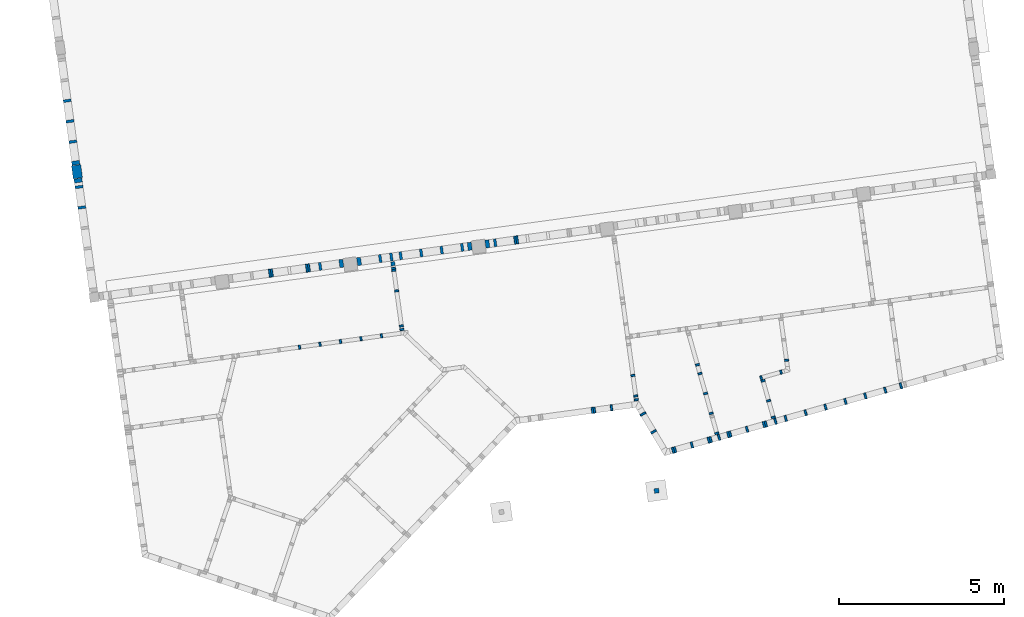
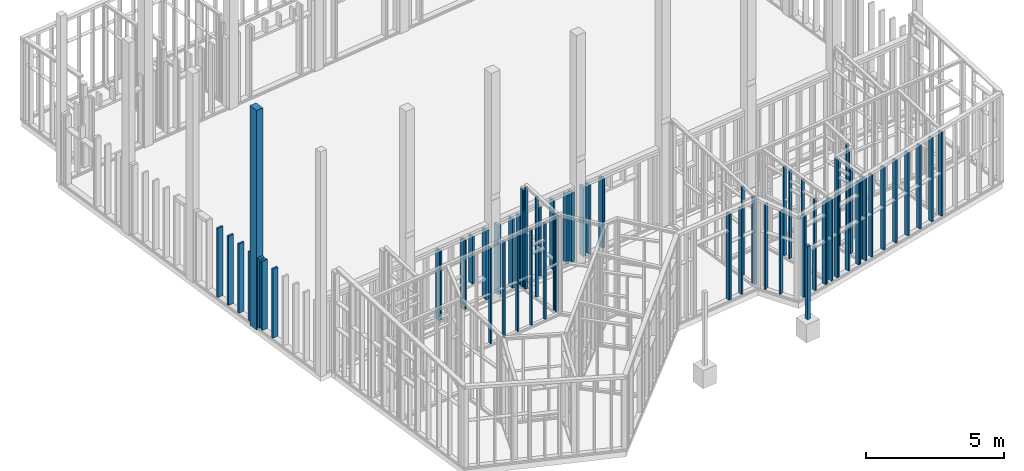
# One storey, part 3 of 24: 76 columns.
"""IFC2X3 building model written with IfcOpenShell, lengths in metres."""

import ifcopenshell
import ifcopenshell.guid

model = None  # the IFC model being written
_history = None  # IfcOwnerHistory: only IFC2X3 demands one
_inside = {}  # id of a spatial element -> (the spatial element, [elements in it])
_under = {}  # id of a project, library or spatial element -> (it, [spatial elements below it])
_declared = {}  # id of a project -> (the project, [libraries it declares])
_typed = {}  # id of a type object -> (the type object, [elements of that type])
_made_of = {}  # id of a material, layer set ... -> (it, [elements and type objects made of it])


def new_model(schema):
    """Start an empty IFC model of exactly this schema.

    Asked for "IFC4X3", IfcOpenShell would pick the latest addendum, in which some entities
    have other attributes; the version numbers below select the first issue.
    IFC2X3 requires an IfcOwnerHistory on every rooted entity: one is made here for all.
    """
    global model, _history
    if schema == "IFC4X3":
        model = ifcopenshell.file(schema_version=(4, 3, 0, 0))
    else:
        model = ifcopenshell.file(schema=schema)
    _inside.clear()
    _under.clear()
    _declared.clear()
    _typed.clear()
    _made_of.clear()
    _history = None
    if model.schema == "IFC2X3":
        org = make("IfcOrganization", Name="unknown")
        user = make(
            "IfcPersonAndOrganization",
            ThePerson=make("IfcPerson", FamilyName="unknown"),
            TheOrganization=org,
        )
        app = make(
            "IfcApplication",
            ApplicationDeveloper=org,
            Version="unknown",
            ApplicationFullName="unknown",
            ApplicationIdentifier="unknown",
        )
        _history = make(
            "IfcOwnerHistory",
            OwningUser=user,
            OwningApplication=app,
            ChangeAction="ADDED",
            CreationDate=0,
        )
    return model


def make(cls, **values):
    """One entity of the class cls with the attributes given. An attribute that is None is left unset."""
    return model.create_entity(
        cls, **{name: value for name, value in values.items() if value is not None}
    )


def entity(cls, *values):
    """Any entity or typed value of the class cls, its attributes in the order of the schema. None: left unset."""
    e = model.create_entity(cls)
    for i, value in enumerate(values):
        if value is not None:
            e[i] = value
    return e


def rooted(cls, **values):
    """An entity with a GlobalId (a new one), such as an element, a storey or a relation."""
    return make(cls, GlobalId=ifcopenshell.guid.new(), OwnerHistory=_history, **values)


def si_unit(unit_type, name, prefix=None):
    """IfcSIUnit, for example si_unit("LENGTHUNIT", "METRE", prefix="MILLI")."""
    return make("IfcSIUnit", UnitType=unit_type, Prefix=prefix, Name=name)


def converted_unit(unit_type, name, factor, base, dimensions=None, offset=None):
    """IfcConversionBasedUnit, such as the inch: factor (a typed value) times the base unit."""
    return make(
        "IfcConversionBasedUnit"
        if offset is None
        else "IfcConversionBasedUnitWithOffset",
        ConversionOffset=offset,
        Dimensions=None
        if dimensions is None
        else entity("IfcDimensionalExponents", *dimensions),
        UnitType=unit_type,
        Name=name,
        ConversionFactor=make(
            "IfcMeasureWithUnit", ValueComponent=factor, UnitComponent=base
        ),
    )


def derived_unit(unit_type, elements):
    """IfcDerivedUnit: a product of units, each with its exponent."""
    return make(
        "IfcDerivedUnit",
        Elements=[
            make("IfcDerivedUnitElement", Unit=unit, Exponent=power)
            for unit, power in elements
        ],
        UnitType=unit_type,
    )


def money_unit(currency):
    """IfcMonetaryUnit."""
    return make("IfcMonetaryUnit", Currency=currency)


def assignment(units):
    """IfcUnitAssignment: the units of a project."""
    return None if units is None else make("IfcUnitAssignment", Units=units)


def point(xyz):
    """IfcCartesianPoint."""
    return None if xyz is None else make("IfcCartesianPoint", Coordinates=xyz)


def direction(xyz):
    """IfcDirection."""
    return None if xyz is None else make("IfcDirection", DirectionRatios=xyz)


def frame(location, z_axis=None, x_axis=None):
    """IfcAxis2Placement3D, a coordinate frame: its origin and axes. An axis left out is left unset."""
    return make(
        "IfcAxis2Placement3D",
        Location=point(location),
        Axis=direction(z_axis),
        RefDirection=direction(x_axis),
    )


def frame_2d(location, x_axis=None):
    """IfcAxis2Placement2D, a coordinate frame in the plane: its origin and x axis."""
    return make(
        "IfcAxis2Placement2D", Location=point(location), RefDirection=direction(x_axis)
    )


def origin_with_axes():
    """The frame at (0, 0, 0) with the z axis (0, 0, 1) and the x axis (1, 0, 0) written out."""
    return frame((0.0, 0.0, 0.0), z_axis=(0.0, 0.0, 1.0), x_axis=(1.0, 0.0, 0.0))


def origin_2d_with_axis():
    """The frame at (0, 0) in the plane with the x axis (1, 0) written out."""
    return frame_2d((0.0, 0.0), x_axis=(1.0, 0.0))


def place(relative_to, where):
    """IfcLocalPlacement: puts the frame where relative to a parent placement (None: the world)."""
    return make(
        "IfcLocalPlacement", PlacementRelTo=relative_to, RelativePlacement=where
    )


def context(
    kind, dimensions, precision=None, world=None, true_north=None, identifier=None
):
    """IfcGeometricRepresentationContext, for example the 3D "Model" context."""
    return make(
        "IfcGeometricRepresentationContext",
        ContextIdentifier=identifier,
        ContextType=kind,
        CoordinateSpaceDimension=dimensions,
        Precision=precision,
        WorldCoordinateSystem=world,
        TrueNorth=true_north,
    )


def subcontext(parent, identifier, kind, view, scale=None):
    """IfcGeometricRepresentationSubContext, for example "Body" below "Model"."""
    return make(
        "IfcGeometricRepresentationSubContext",
        ContextIdentifier=identifier,
        ContextType=kind,
        ParentContext=parent,
        TargetScale=scale,
        TargetView=view,
    )


def project(units=None, contexts=None):
    """IfcProject with its units and contexts."""
    return rooted(
        "IfcProject",
        Name="project",
        RepresentationContexts=contexts,
        UnitsInContext=assignment(units),
    )


def spatial(cls, under=None, at=None, **own):
    """A site, building, storey or space (cls), placed at a placement, below another one or the project."""
    s = rooted(cls, ObjectPlacement=at, **own)
    if under is not None:
        _under.setdefault(under.id(), (under, []))[1].append(s)
    return s


def profile(cls, at=None, kind="AREA", **sizes):
    """A parametric profile (cls). Its sizes go by their IFC names, for example OverallWidth=200.0."""
    return make(cls, ProfileType=kind, Position=at, **sizes)


def rectangle(**sizes):
    """IfcRectangleProfileDef."""
    return profile("IfcRectangleProfileDef", **sizes)


def extrude(swept, where, along, depth):
    """IfcExtrudedAreaSolid: the profile swept, set in the frame where, extruded along a direction by depth."""
    return make(
        "IfcExtrudedAreaSolid",
        SweptArea=swept,
        Position=where,
        ExtrudedDirection=direction(along),
        Depth=depth,
    )


def shape(context_of_items, identifier, shape_type, items):
    """IfcShapeRepresentation: the items that make up one representation, for example the "Body"."""
    return make(
        "IfcShapeRepresentation",
        ContextOfItems=context_of_items,
        RepresentationIdentifier=identifier,
        RepresentationType=shape_type,
        Items=items,
    )


def material(Name=None, Category=None):
    """IfcMaterial."""
    return make("IfcMaterial", Name=Name, Category=Category)


def made_of(thing, what):
    """Note that an element or type object is made of a material, layer set ...; save() writes the relation."""
    if what is not None:
        _made_of.setdefault(what.id(), (what, []))[1].append(thing)
    return thing


def type_object(cls, material=None, **own):
    """A type object (cls), such as IfcWallType, which elements share."""
    return made_of(rooted(cls, **own), material)


def element(
    cls,
    number,
    at=None,
    inside=None,
    cuts=None,
    type_object=None,
    material=None,
    context=None,
    identifier="Body",
    shape_type=None,
    held_by="IfcProductDefinitionShape",
    body=None,
    shapes=None,
    **own,
):
    """One element of the class cls, such as IfcWall. Its Tag is "e" and its number.

    at: its placement. inside: the storey or other place that contains it. cuts: it is an
    opening in that element (IfcRelVoidsElement). A single representation is given by context,
    identifier, shape_type and body (its items); several are given by shapes. held_by: the class
    of the entity that holds the representations. save() writes the other relations.
    """
    e = rooted(cls, Tag="e%d" % number, ObjectPlacement=at, **own)
    if body is not None:
        shapes = [shape(context, identifier, shape_type, body)]
    if shapes is not None:
        e.Representation = make(held_by, Representations=shapes)
    if inside is not None:
        _inside.setdefault(inside.id(), (inside, []))[1].append(e)
    if cuts is not None:
        rooted(
            "IfcRelVoidsElement", RelatingBuildingElement=cuts, RelatedOpeningElement=e
        )
    if type_object is not None:
        _typed.setdefault(type_object.id(), (type_object, []))[1].append(e)
    return made_of(e, material)


def aggregate(whole, parts):
    """IfcRelAggregates: a whole, such as a stair, and the parts it consists of."""
    return rooted("IfcRelAggregates", RelatingObject=whole, RelatedObjects=parts)


def save(model, path):
    """Write the relations noted so far, then the file.

    IfcRelAggregates (storeys below a building ...), IfcRelContainedInSpatialStructure (elements
    in a storey), IfcRelDefinesByType, IfcRelAssociatesMaterial and IfcRelDeclares: one each for
    every whole, place, type object, material and project.
    """
    for whole, parts in _under.values():
        aggregate(whole, parts)
    for where, things in _inside.values():
        rooted(
            "IfcRelContainedInSpatialStructure",
            RelatedElements=things,
            RelatingStructure=where,
        )
    for kind, things in _typed.values():
        rooted("IfcRelDefinesByType", RelatedObjects=things, RelatingType=kind)
    for what, things in _made_of.values():
        rooted("IfcRelAssociatesMaterial", RelatedObjects=things, RelatingMaterial=what)
    for by, libraries in _declared.values():
        rooted("IfcRelDeclares", RelatingContext=by, RelatedDefinitions=libraries)
    model.write(path)


model = new_model("IFC2X3")

# Units and contexts
model_context = context("Model", 3, precision=1e-05, world=origin_with_axes(), true_north=direction((0.0, 1.0)))
body_context = subcontext(model_context, "Body", "Model", "MODEL_VIEW")
ifc_project = project(units=[si_unit("LENGTHUNIT", "METRE"), si_unit("AREAUNIT", "SQUARE_METRE"), si_unit("VOLUMEUNIT", "CUBIC_METRE"), converted_unit("PLANEANGLEUNIT", "DEGREE", entity("IfcPlaneAngleMeasure", 0.0174532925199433), si_unit("PLANEANGLEUNIT", "RADIAN"), dimensions=[0, 0, 0, 0, 0, 0, 0]), money_unit("EUR"), converted_unit("TIMEUNIT", "Year", entity("IfcTimeMeasure", 31557600.0), si_unit("TIMEUNIT", "SECOND"), dimensions=[0, 0, 1, 0, 0, 0, 0]), si_unit("MASSUNIT", "GRAM", prefix="KILO"), si_unit("THERMODYNAMICTEMPERATUREUNIT", "DEGREE_CELSIUS"), si_unit("LUMINOUSINTENSITYUNIT", "LUMEN"), si_unit("ENERGYUNIT", "JOULE", prefix="MEGA"), derived_unit("THERMALCONDUCTANCEUNIT", [(si_unit("POWERUNIT", "WATT"), 1), (si_unit("LENGTHUNIT", "METRE"), -1), (si_unit("THERMODYNAMICTEMPERATUREUNIT", "KELVIN"), -1)]), derived_unit("SPECIFICHEATCAPACITYUNIT", [(si_unit("ENERGYUNIT", "JOULE"), 1), (si_unit("MASSUNIT", "GRAM", prefix="KILO"), -1), (si_unit("THERMODYNAMICTEMPERATUREUNIT", "KELVIN"), -1)]), derived_unit("MASSDENSITYUNIT", [(si_unit("MASSUNIT", "GRAM", prefix="KILO"), 1), (si_unit("VOLUMEUNIT", "CUBIC_METRE"), -1)])], contexts=[model_context])

# Site, building, storey
site_placement = place(None, origin_with_axes())
site = spatial("IfcSite", under=ifc_project, at=site_placement, Name="Gelände", CompositionType="ELEMENT")
building_placement = place(site_placement, origin_with_axes())
building = spatial("IfcBuilding", under=site, at=building_placement, Name="Gebäude", CompositionType="ELEMENT")
storey_placement = place(building_placement, origin_with_axes())
storey = spatial("IfcBuildingStorey", under=building, at=storey_placement, Name="EG", CompositionType="ELEMENT", Elevation=0.0)

# Columns
ifc_material_1 = material(Name="Holz, Bauholz")
column_type_1 = type_object("IfcColumnType", Name="Holz, Bauholz 140 x 140", PredefinedType="NOTDEFINED")
column_1_placement = place(storey_placement, frame((103.5901392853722, -156.8644712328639, -0.1), z_axis=(0.0, 0.0, 1.0), x_axis=(0.990748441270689, 0.1357111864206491, 0.0)))
element("IfcColumn", 1, at=column_1_placement, inside=storey, type_object=column_type_1, material=ifc_material_1, Name="Stütze-010", context=body_context, shape_type="SweptSolid", body=[
    extrude(rectangle(XDim=0.14, YDim=0.14, at=origin_2d_with_axis()), origin_with_axes(), (0.0, 0.0, 1.0), 3.231537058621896),
])
ifc_material_2 = material(Name="Holz, Brettschichtholz")
column_type_2 = type_object("IfcColumnType", Name="Holz, Brettschichtholz 280 x 400", PredefinedType="NOTDEFINED")
column_2_placement = place(storey_placement, frame((86.07335737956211, -147.2203477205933, -0.1680000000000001), z_axis=(0.0, 0.0, 1.0), x_axis=(-0.9907484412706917, -0.1357111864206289, 0.0)))
element("IfcColumn", 2, at=column_2_placement, inside=storey, type_object=column_type_2, material=ifc_material_2, Name="Stütze-011", context=body_context, shape_type="SweptSolid", body=[
    extrude(rectangle(XDim=0.28, YDim=0.4, at=origin_2d_with_axis()), frame((0.0, 0.0, 0.0), z_axis=(0.0, 0.0, -1.0), x_axis=(-1.0, 0.0, 0.0)), (0.0, 0.0, -1.0), 9.720572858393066),
])
ifc_material_3 = material(Name="Bauholz")
column_type_3 = type_object("IfcColumnType", Name="Bauholz 80 x 240", PredefinedType="NOTDEFINED")
column_3_placement = place(storey_placement, frame((98.71195246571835, -149.3695322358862, -0.02800000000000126), z_axis=(0.0, 0.0, 1.0), x_axis=(0.9907484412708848, 0.1357111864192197, 0.0)))
element("IfcColumn", 3, at=column_3_placement, inside=storey, type_object=column_type_3, material=ifc_material_3, Name="Stütze-018", context=body_context, shape_type="SweptSolid", body=[
    extrude(rectangle(XDim=0.08, YDim=0.24, at=origin_2d_with_axis()), origin_with_axes(), (0.0, 0.0, 1.0), 3.059999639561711),
])
column_4_placement = place(storey_placement, frame((93.42319707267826, -150.0813610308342, 0.927000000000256), z_axis=(0.0, 0.0, 1.0), x_axis=(0.9907484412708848, 0.1357111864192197, 0.0)))
element("IfcColumn", 4, at=column_4_placement, inside=storey, type_object=column_type_3, material=ifc_material_3, Name="Stütze-018", context=body_context, shape_type="SweptSolid", body=[
    extrude(rectangle(XDim=0.08, YDim=0.24, at=origin_2d_with_axis()), origin_with_axes(), (0.0, 0.0, 1.0), 2.104999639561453),
])
column_5_placement = place(storey_placement, frame((95.23796453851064, -149.8453937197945, -0.0280000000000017), z_axis=(0.0, 0.0, 1.0), x_axis=(0.9907484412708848, 0.1357111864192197, 0.0)))
element("IfcColumn", 5, at=column_5_placement, inside=storey, type_object=column_type_3, material=ifc_material_3, Name="Stütze-018", context=body_context, shape_type="SweptSolid", body=[
    extrude(rectangle(XDim=0.08, YDim=0.24, at=origin_2d_with_axis()), origin_with_axes(), (0.0, 0.0, 1.0), 3.059999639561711),
])
column_6_placement = place(storey_placement, frame((95.57388131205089, -149.7993803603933, -0.02800000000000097), z_axis=(0.0, 0.0, 1.0), x_axis=(0.9907484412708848, 0.1357111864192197, 0.0)))
element("IfcColumn", 6, at=column_6_placement, inside=storey, type_object=column_type_3, material=ifc_material_3, Name="Stütze-018", context=body_context, shape_type="SweptSolid", body=[
    extrude(rectangle(XDim=0.08, YDim=0.24, at=origin_2d_with_axis()), origin_with_axes(), (0.0, 0.0, 1.0), 3.05999963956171),
])
for number, where, z_axis, x_axis in (
    (7, (95.85718231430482, -149.7605742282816, -0.0280000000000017), (0.0, 0.0, 1.0), (0.9907484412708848, 0.1357111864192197, 0.0)),
    (8, (96.476400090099, -149.6757547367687, -0.0280000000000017), (0.0, 0.0, 1.0), (0.9907484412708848, 0.1357111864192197, 0.0)),
    (9, (97.09561786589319, -149.5909352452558, -0.0280000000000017), (0.0, 0.0, 1.0), (0.9907484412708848, 0.1357111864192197, 0.0)),
    (10, (97.71483564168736, -149.5061157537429, -0.0280000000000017), (0.0, 0.0, 1.0), (0.9907484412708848, 0.1357111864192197, 0.0)),
):
    element("IfcColumn", number, at=place(storey_placement, frame(where, z_axis=z_axis, x_axis=x_axis)), inside=storey, type_object=column_type_3, material=ifc_material_3, Name="Stütze-018", context=body_context, shape_type="SweptSolid", body=[
        extrude(rectangle(XDim=0.08, YDim=0.24, at=origin_2d_with_axis()), origin_with_axes(), (0.0, 0.0, 1.0), 3.059999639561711),
    ])
for number, where, z_axis, x_axis in (
    (11, (86.2193010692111, -148.3005348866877, -0.02800000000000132), (0.0, 0.0, 1.0), (0.1357111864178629, -0.9907484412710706, 0.0)),
    (12, (86.13448157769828, -147.6813171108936, -0.02800000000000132), (0.0, 0.0, 1.0), (0.1357111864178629, -0.9907484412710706, 0.0)),
    (13, (85.94720014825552, -146.3140843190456, -0.02800000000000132), (0.0, 0.0, 1.0), (0.1357111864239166, -0.9907484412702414, 0.0)),
    (14, (85.77756116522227, -145.0756487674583, -0.02800000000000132), (0.0, 0.0, 1.0), (0.1357111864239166, -0.9907484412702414, 0.0)),
    (15, (85.8623806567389, -145.6948665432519, -0.02800000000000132), (0.0, 0.0, 1.0), (0.1357111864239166, -0.9907484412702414, 0.0)),
):
    element("IfcColumn", number, at=place(storey_placement, frame(where, z_axis=z_axis, x_axis=x_axis)), inside=storey, type_object=column_type_3, material=ifc_material_3, Name="Stütze-018", context=body_context, shape_type="SweptSolid", body=[
        extrude(rectangle(XDim=0.08, YDim=0.24, at=origin_2d_with_axis()), origin_with_axes(), (0.0, 0.0, 1.0), 3.059999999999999),
    ])
column_type_4 = type_object("IfcColumnType", Name="Bauholz 60 x 120", PredefinedType="NOTDEFINED")
column_7_placement = place(storey_placement, frame((95.64105605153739, -150.1424112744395, -0.04300000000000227), z_axis=(0.0, 0.0, 1.0), x_axis=(-0.1357096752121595, 0.9907486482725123, 0.0)))
element("IfcColumn", 16, at=column_7_placement, inside=storey, type_object=column_type_4, material=ifc_material_3, Name="Stütze-018", context=body_context, shape_type="SweptSolid", body=[
    extrude(rectangle(XDim=0.06, YDim=0.12, at=origin_2d_with_axis()), frame((0.0, 0.0, 0.0), z_axis=(0.0, 0.0, -1.0), x_axis=(-1.0, 0.0, 0.0)), (0.0, 0.0, -1.0), 4.336175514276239),
])
column_8_placement = place(storey_placement, frame((107.5185930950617, -152.9189757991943, -0.04299999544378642), z_axis=(0.0, 0.0, 1.0), x_axis=(0.1357111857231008, -0.9907484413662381, 0.0)))
element("IfcColumn", 17, at=column_8_placement, inside=storey, type_object=column_type_4, material=ifc_material_3, Name="Stütze-018", context=body_context, shape_type="SweptSolid", body=[
    extrude(rectangle(XDim=0.06, YDim=0.12, at=origin_2d_with_axis()), frame((0.0, 0.0, 0.0), z_axis=(0.0, 0.0, -1.0), x_axis=(-1.0, 0.0, 0.0)), (0.0, 0.0, -1.0), 3.90597664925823),
])
column_9_placement = place(storey_placement, frame((107.3512581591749, -153.2776656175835, -0.04299999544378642), z_axis=(0.0, 0.0, 1.0), x_axis=(-0.9621980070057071, -0.2723508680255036, 0.0)))
element("IfcColumn", 18, at=column_9_placement, inside=storey, type_object=column_type_4, material=ifc_material_3, Name="Stütze-018", context=body_context, shape_type="SweptSolid", body=[
    extrude(rectangle(XDim=0.06, YDim=0.12, at=origin_2d_with_axis()), origin_with_axes(), (0.0, 0.0, 1.0), 3.856751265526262),
])
column_10_placement = place(storey_placement, frame((106.7498844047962, -153.4478849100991, -0.04299999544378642), z_axis=(0.0, 0.0, 1.0), x_axis=(-0.9621980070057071, -0.2723508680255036, 0.0)))
element("IfcColumn", 19, at=column_10_placement, inside=storey, type_object=column_type_4, material=ifc_material_3, Name="Stütze-018", context=body_context, shape_type="SweptSolid", body=[
    extrude(rectangle(XDim=0.06, YDim=0.12, at=origin_2d_with_axis()), origin_with_axes(), (0.0, 0.0, 1.0), 3.844519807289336),
])
column_11_placement = place(storey_placement, frame((106.977566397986, -154.1421189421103, -0.04299999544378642), z_axis=(0.0, 0.0, 1.0), x_axis=(-0.2723507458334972, 0.9621980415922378, 0.0)))
element("IfcColumn", 20, at=column_11_placement, inside=storey, type_object=column_type_4, material=ifc_material_3, Name="Stütze-018", context=body_context, shape_type="SweptSolid", body=[
    extrude(rectangle(XDim=0.06, YDim=0.12, at=origin_2d_with_axis()), origin_with_axes(), (0.0, 0.0, 1.0), 3.742172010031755),
])
column_12_placement = place(storey_placement, frame((106.8073471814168, -153.5407451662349, -0.04299999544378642), z_axis=(0.0, 0.0, 1.0), x_axis=(-0.2723507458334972, 0.9621980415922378, 0.0)))
element("IfcColumn", 21, at=column_12_placement, inside=storey, type_object=column_type_4, material=ifc_material_3, Name="Stütze-018", context=body_context, shape_type="SweptSolid", body=[
    extrude(rectangle(XDim=0.06, YDim=0.12, at=origin_2d_with_axis()), origin_with_axes(), (0.0, 0.0, 1.0), 3.829154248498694),
])
column_13_placement = place(storey_placement, frame((107.1190788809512, -154.6420736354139, -0.04299999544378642), z_axis=(0.0, 0.0, 1.0), x_axis=(-0.2723507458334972, 0.9621980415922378, 0.0)))
element("IfcColumn", 22, at=column_13_placement, inside=storey, type_object=column_type_4, material=ifc_material_3, Name="Stütze-018", context=body_context, shape_type="SweptSolid", body=[
    extrude(rectangle(XDim=0.06, YDim=0.12, at=origin_2d_with_axis()), origin_with_axes(), (0.0, 0.0, 1.0), 3.66985894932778),
])
column_14_placement = place(storey_placement, frame((104.8256590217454, -153.0568971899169, -0.04299999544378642), z_axis=(0.0, 0.0, 1.0), x_axis=(0.2723507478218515, -0.962198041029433, 0.0)))
element("IfcColumn", 23, at=column_14_placement, inside=storey, type_object=column_type_4, material=ifc_material_3, Name="Stütze-018", context=body_context, shape_type="SweptSolid", body=[
    extrude(rectangle(XDim=0.06, YDim=0.12, at=origin_2d_with_axis()), frame((0.0, 0.0, 0.0), z_axis=(0.0, 0.0, -1.0), x_axis=(-1.0, 0.0, 0.0)), (0.0, 0.0, -1.0), 3.933176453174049),
])
column_15_placement = place(storey_placement, frame((105.0707389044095, -153.9227489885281, -0.04299999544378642), z_axis=(0.0, 0.0, 1.0), x_axis=(0.2723507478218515, -0.962198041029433, 0.0)))
element("IfcColumn", 24, at=column_15_placement, inside=storey, type_object=column_type_4, material=ifc_material_3, Name="Stütze-018", context=body_context, shape_type="SweptSolid", body=[
    extrude(rectangle(XDim=0.06, YDim=0.12, at=origin_2d_with_axis()), frame((0.0, 0.0, 0.0), z_axis=(0.0, 0.0, -1.0), x_axis=(-1.0, 0.0, 0.0)), (0.0, 0.0, -1.0), 3.807944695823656),
])
column_16_placement = place(storey_placement, frame((104.9005196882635, -153.321375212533, -0.04299999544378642), z_axis=(0.0, 0.0, 1.0), x_axis=(0.2723507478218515, -0.962198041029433, 0.0)))
element("IfcColumn", 25, at=column_16_placement, inside=storey, type_object=column_type_4, material=ifc_material_3, Name="Stütze-018", context=body_context, shape_type="SweptSolid", body=[
    extrude(rectangle(XDim=0.06, YDim=0.12, at=origin_2d_with_axis()), frame((0.0, 0.0, 0.0), z_axis=(0.0, 0.0, -1.0), x_axis=(-1.0, 0.0, 0.0)), (0.0, 0.0, -1.0), 3.894923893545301),
])
column_17_placement = place(storey_placement, frame((105.4111773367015, -155.1254965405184, -0.04299999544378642), z_axis=(0.0, 0.0, 1.0), x_axis=(0.2723507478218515, -0.962198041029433, 0.0)))
element("IfcColumn", 26, at=column_17_placement, inside=storey, type_object=column_type_4, material=ifc_material_3, Name="Stütze-018", context=body_context, shape_type="SweptSolid", body=[
    extrude(rectangle(XDim=0.06, YDim=0.12, at=origin_2d_with_axis()), frame((0.0, 0.0, 0.0), z_axis=(0.0, 0.0, -1.0), x_axis=(-1.0, 0.0, 0.0)), (0.0, 0.0, -1.0), 3.633986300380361),
])
column_18_placement = place(storey_placement, frame((105.2409581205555, -154.5241227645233, -0.04299999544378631), z_axis=(0.0, 0.0, 1.0), x_axis=(0.2723507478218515, -0.962198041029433, 0.0)))
element("IfcColumn", 27, at=column_18_placement, inside=storey, type_object=column_type_4, material=ifc_material_3, Name="Stütze-018", context=body_context, shape_type="SweptSolid", body=[
    extrude(rectangle(XDim=0.06, YDim=0.12, at=origin_2d_with_axis()), frame((0.0, 0.0, 0.0), z_axis=(0.0, 0.0, -1.0), x_axis=(-1.0, 0.0, 0.0)), (0.0, 0.0, -1.0), 3.262521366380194),
])
column_19_placement = place(storey_placement, frame((102.8757432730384, -153.3787408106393, -0.04299999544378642), z_axis=(0.0, 0.0, 1.0), x_axis=(-0.1357096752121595, 0.9907486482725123, 0.0)))
element("IfcColumn", 28, at=column_19_placement, inside=storey, type_object=column_type_4, material=ifc_material_3, Name="Stütze-018", context=body_context, shape_type="SweptSolid", body=[
    extrude(rectangle(XDim=0.06, YDim=0.12, at=origin_2d_with_axis()), frame((0.0, 0.0, 0.0), z_axis=(0.0, 0.0, -1.0), x_axis=(-1.0, 0.0, 0.0)), (0.0, 0.0, -1.0), 3.926717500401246),
])
column_20_placement = place(storey_placement, frame((102.9605627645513, -153.9979585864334, -0.04299999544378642), z_axis=(0.0, 0.0, 1.0), x_axis=(-0.1357096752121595, 0.9907486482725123, 0.0)))
element("IfcColumn", 29, at=column_20_placement, inside=storey, type_object=column_type_4, material=ifc_material_3, Name="Stütze-018", context=body_context, shape_type="SweptSolid", body=[
    extrude(rectangle(XDim=0.06, YDim=0.12, at=origin_2d_with_axis()), frame((0.0, 0.0, 0.0), z_axis=(0.0, 0.0, -1.0), x_axis=(-1.0, 0.0, 0.0)), (0.0, 0.0, -1.0), 3.83887947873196),
])
column_21_placement = place(storey_placement, frame((102.9762906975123, -154.112778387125, -0.04299999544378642), z_axis=(0.0, 0.0, 1.0), x_axis=(-0.1357096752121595, 0.9907486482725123, 0.0)))
element("IfcColumn", 30, at=column_21_placement, inside=storey, type_object=column_type_4, material=ifc_material_3, Name="Stütze-018", context=body_context, shape_type="SweptSolid", body=[
    extrude(rectangle(XDim=0.06, YDim=0.12, at=origin_2d_with_axis()), frame((0.0, 0.0, 0.0), z_axis=(0.0, 0.0, -1.0), x_axis=(-1.0, 0.0, 0.0)), (0.0, 0.0, -1.0), 3.822591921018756),
])
column_22_placement = place(storey_placement, frame((95.64919872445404, -150.2018561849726, -0.04300000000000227), z_axis=(0.0, 0.0, 1.0), x_axis=(-0.1357096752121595, 0.9907486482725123, 0.0)))
element("IfcColumn", 31, at=column_22_placement, inside=storey, type_object=column_type_4, material=ifc_material_3, Name="Stütze-018", context=body_context, shape_type="SweptSolid", body=[
    extrude(rectangle(XDim=0.06, YDim=0.12, at=origin_2d_with_axis()), frame((0.0, 0.0, 0.0), z_axis=(0.0, 0.0, -1.0), x_axis=(-1.0, 0.0, 0.0)), (0.0, 0.0, -1.0), 4.50690046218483),
])
column_23_placement = place(storey_placement, frame((95.87922756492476, -151.8811750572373, -0.04300000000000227), z_axis=(0.0, 0.0, 1.0), x_axis=(-0.1357096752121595, 0.9907486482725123, 0.0)))
element("IfcColumn", 32, at=column_23_placement, inside=storey, type_object=column_type_4, material=ifc_material_3, Name="Stütze-018", context=body_context, shape_type="SweptSolid", body=[
    extrude(rectangle(XDim=0.06, YDim=0.12, at=origin_2d_with_axis()), frame((0.0, 0.0, 0.0), z_axis=(0.0, 0.0, -1.0), x_axis=(-1.0, 0.0, 0.0)), (0.0, 0.0, -1.0), 4.268683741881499),
])
column_24_placement = place(storey_placement, frame((95.73401820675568, -150.8210739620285, -0.04300000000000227), z_axis=(0.0, 0.0, 1.0), x_axis=(-0.1357096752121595, 0.9907486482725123, 0.0)))
element("IfcColumn", 33, at=column_24_placement, inside=storey, type_object=column_type_4, material=ifc_material_3, Name="Stütze-018", context=body_context, shape_type="SweptSolid", body=[
    extrude(rectangle(XDim=0.06, YDim=0.12, at=origin_2d_with_axis()), frame((0.0, 0.0, 0.0), z_axis=(0.0, 0.0, -1.0), x_axis=(-1.0, 0.0, 0.0)), (0.0, 0.0, -1.0), 4.419062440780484),
])
column_25_placement = place(storey_placement, frame((95.8943808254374, -151.991801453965, -0.04300000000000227), z_axis=(0.0, 0.0, 1.0), x_axis=(-0.1357096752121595, 0.9907486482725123, 0.0)))
element("IfcColumn", 34, at=column_25_placement, inside=storey, type_object=column_type_4, material=ifc_material_3, Name="Stütze-018", context=body_context, shape_type="SweptSolid", body=[
    extrude(rectangle(XDim=0.06, YDim=0.12, at=origin_2d_with_axis()), frame((0.0, 0.0, 0.0), z_axis=(0.0, 0.0, -1.0), x_axis=(-1.0, 0.0, 0.0)), (0.0, 0.0, -1.0), 4.252991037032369),
])
for number, where, z_axis, x_axis in (
    (35, (95.27632370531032, -152.182442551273, -0.04300000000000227), (0.0, 0.0, 1.0), (-0.9907484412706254, -0.1357111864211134, 0.0)),
    (36, (94.65710592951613, -152.2672620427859, -0.04300000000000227), (0.0, 0.0, 1.0), (-0.9907484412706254, -0.1357111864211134, 0.0)),
    (37, (93.41867037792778, -152.4369010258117, -0.04300000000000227), (0.0, 0.0, 1.0), (-0.9907484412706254, -0.1357111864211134, 0.0)),
    (38, (94.03788815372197, -152.3520815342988, -0.04300000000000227), (0.0, 0.0, 1.0), (-0.9907484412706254, -0.1357111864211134, 0.0)),
    (39, (92.7994526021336, -152.5217205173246, -0.04300000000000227), (0.0, 0.0, 1.0), (-0.9907484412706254, -0.1357111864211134, 0.0)),
):
    element("IfcColumn", number, at=place(storey_placement, frame(where, z_axis=z_axis, x_axis=x_axis)), inside=storey, type_object=column_type_4, material=ifc_material_3, Name="Stütze-018", context=body_context, shape_type="SweptSolid", body=[
        extrude(rectangle(XDim=0.06, YDim=0.12, at=origin_2d_with_axis()), frame((0.0, 0.0, 0.0), z_axis=(0.0, 0.0, -1.0), x_axis=(-1.0, 0.0, 0.0)), (0.0, 0.0, -1.0), 4.235197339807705),
    ])
column_type_5 = type_object("IfcColumnType", Name="Bauholz 60 x 180", PredefinedType="NOTDEFINED")
column_26_placement = place(storey_placement, frame((110.974387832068, -153.6911288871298, -0.04300000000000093), z_axis=(0.0, 0.0, 1.0), x_axis=(0.9622006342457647, 0.2723415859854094, 0.0)))
element("IfcColumn", 40, at=column_26_placement, inside=storey, type_object=column_type_5, material=ifc_material_3, Name="Stütze-018", context=body_context, shape_type="SweptSolid", body=[
    extrude(rectangle(XDim=0.06, YDim=0.1800002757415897, at=origin_2d_with_axis()), frame((0.0, 0.0, 0.0), z_axis=(0.0, 0.0, -1.0), x_axis=(-1.0, 0.0, 0.0)), (0.0, 0.0, -1.0), 3.726282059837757),
])
column_27_placement = place(storey_placement, frame((110.5015839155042, -153.8249562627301, -0.04300000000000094), z_axis=(0.0, 0.0, 1.0), x_axis=(0.9622006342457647, 0.2723415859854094, 0.0)))
element("IfcColumn", 41, at=column_27_placement, inside=storey, type_object=column_type_5, material=ifc_material_3, Name="Stütze-018", context=body_context, shape_type="SweptSolid", body=[
    extrude(rectangle(XDim=0.06, YDim=0.18, at=origin_2d_with_axis()), frame((0.0, 0.0, 0.0), z_axis=(0.0, 0.0, -1.0), x_axis=(-1.0, 0.0, 0.0)), (0.0, 0.0, -1.0), 3.716665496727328),
])
column_28_placement = place(storey_placement, frame((109.9002101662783, -153.9951755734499, -0.04300000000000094), z_axis=(0.0, 0.0, 1.0), x_axis=(0.9622006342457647, 0.2723415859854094, 0.0)))
element("IfcColumn", 42, at=column_28_placement, inside=storey, type_object=column_type_5, material=ifc_material_3, Name="Stütze-018", context=body_context, shape_type="SweptSolid", body=[
    extrude(rectangle(XDim=0.06, YDim=0.18, at=origin_2d_with_axis()), frame((0.0, 0.0, 0.0), z_axis=(0.0, 0.0, -1.0), x_axis=(-1.0, 0.0, 0.0)), (0.0, 0.0, -1.0), 3.704433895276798),
])
column_29_placement = place(storey_placement, frame((109.2988364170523, -154.1653948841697, -0.04300000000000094), z_axis=(0.0, 0.0, 1.0), x_axis=(0.9622006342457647, 0.2723415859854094, 0.0)))
element("IfcColumn", 43, at=column_29_placement, inside=storey, type_object=column_type_5, material=ifc_material_3, Name="Stütze-018", context=body_context, shape_type="SweptSolid", body=[
    extrude(rectangle(XDim=0.06, YDim=0.18, at=origin_2d_with_axis()), frame((0.0, 0.0, 0.0), z_axis=(0.0, 0.0, -1.0), x_axis=(-1.0, 0.0, 0.0)), (0.0, 0.0, -1.0), 3.692202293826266),
])
column_30_placement = place(storey_placement, frame((108.6974626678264, -154.3356141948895, -0.04300000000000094), z_axis=(0.0, 0.0, 1.0), x_axis=(0.9622006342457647, 0.2723415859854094, 0.0)))
element("IfcColumn", 44, at=column_30_placement, inside=storey, type_object=column_type_5, material=ifc_material_3, Name="Stütze-018", context=body_context, shape_type="SweptSolid", body=[
    extrude(rectangle(XDim=0.06, YDim=0.18, at=origin_2d_with_axis()), frame((0.0, 0.0, 0.0), z_axis=(0.0, 0.0, -1.0), x_axis=(-1.0, 0.0, 0.0)), (0.0, 0.0, -1.0), 3.679970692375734),
])
column_31_placement = place(storey_placement, frame((108.0960889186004, -154.5058335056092, -0.04300000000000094), z_axis=(0.0, 0.0, 1.0), x_axis=(0.9622006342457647, 0.2723415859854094, 0.0)))
element("IfcColumn", 45, at=column_31_placement, inside=storey, type_object=column_type_5, material=ifc_material_3, Name="Stütze-018", context=body_context, shape_type="SweptSolid", body=[
    extrude(rectangle(XDim=0.06, YDim=0.18, at=origin_2d_with_axis()), frame((0.0, 0.0, 0.0), z_axis=(0.0, 0.0, -1.0), x_axis=(-1.0, 0.0, 0.0)), (0.0, 0.0, -1.0), 3.667739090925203),
])
column_32_placement = place(storey_placement, frame((107.4947151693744, -154.676052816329, -0.04300000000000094), z_axis=(0.0, 0.0, 1.0), x_axis=(0.9622006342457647, 0.2723415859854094, 0.0)))
element("IfcColumn", 46, at=column_32_placement, inside=storey, type_object=column_type_5, material=ifc_material_3, Name="Stütze-018", context=body_context, shape_type="SweptSolid", body=[
    extrude(rectangle(XDim=0.06, YDim=0.18, at=origin_2d_with_axis()), frame((0.0, 0.0, 0.0), z_axis=(0.0, 0.0, -1.0), x_axis=(-1.0, 0.0, 0.0)), (0.0, 0.0, -1.0), 3.655507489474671),
])
column_33_placement = place(storey_placement, frame((106.8933414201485, -154.8462721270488, -0.04300000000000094), z_axis=(0.0, 0.0, 1.0), x_axis=(0.9622006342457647, 0.2723415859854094, 0.0)))
element("IfcColumn", 47, at=column_33_placement, inside=storey, type_object=column_type_5, material=ifc_material_3, Name="Stütze-018", context=body_context, shape_type="SweptSolid", body=[
    extrude(rectangle(XDim=0.06, YDim=0.18, at=origin_2d_with_axis()), frame((0.0, 0.0, 0.0), z_axis=(0.0, 0.0, -1.0), x_axis=(-1.0, 0.0, 0.0)), (0.0, 0.0, -1.0), 3.643275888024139),
])
column_34_placement = place(storey_placement, frame((106.8356093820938, -154.862612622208, -0.04300000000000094), z_axis=(0.0, 0.0, 1.0), x_axis=(0.9622006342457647, 0.2723415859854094, 0.0)))
element("IfcColumn", 48, at=column_34_placement, inside=storey, type_object=column_type_5, material=ifc_material_3, Name="Stütze-018", context=body_context, shape_type="SweptSolid", body=[
    extrude(rectangle(XDim=0.06, YDim=0.18, at=origin_2d_with_axis()), frame((0.0, 0.0, 0.0), z_axis=(0.0, 0.0, -1.0), x_axis=(-1.0, 0.0, 0.0)), (0.0, 0.0, -1.0), 3.642101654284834),
])
column_35_placement = place(storey_placement, frame((107.1847114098, -154.7637997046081, -0.04300000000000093), z_axis=(0.0, 0.0, 1.0), x_axis=(0.9622006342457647, 0.2723415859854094, 0.0)))
element("IfcColumn", 49, at=column_35_placement, inside=storey, type_object=column_type_5, material=ifc_material_3, Name="Stütze-018", context=body_context, shape_type="SweptSolid", body=[
    extrude(rectangle(XDim=0.06, YDim=0.1800001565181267, at=origin_2d_with_axis()), frame((0.0, 0.0, 0.0), z_axis=(0.0, 0.0, -1.0), x_axis=(-1.0, 0.0, 0.0)), (0.0, 0.0, -1.0), 3.649202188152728),
])
column_36_placement = place(storey_placement, frame((105.8156796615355, -155.1513051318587, -0.04300000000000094), z_axis=(0.0, 0.0, 1.0), x_axis=(0.9622006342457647, 0.2723415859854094, 0.0)))
element("IfcColumn", 50, at=column_36_placement, inside=storey, type_object=column_type_5, material=ifc_material_3, Name="Stütze-018", context=body_context, shape_type="SweptSolid", body=[
    extrude(rectangle(XDim=0.06, YDim=0.18, at=origin_2d_with_axis()), frame((0.0, 0.0, 0.0), z_axis=(0.0, 0.0, -1.0), x_axis=(-1.0, 0.0, 0.0)), (0.0, 0.0, -1.0), 3.621356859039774),
])
column_37_placement = place(storey_placement, frame((105.4768096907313, -155.2472225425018, -0.04300000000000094), z_axis=(0.0, 0.0, 1.0), x_axis=(0.9622006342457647, 0.2723415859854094, 0.0)))
element("IfcColumn", 51, at=column_37_placement, inside=storey, type_object=column_type_5, material=ifc_material_3, Name="Stütze-018", context=body_context, shape_type="SweptSolid", body=[
    extrude(rectangle(XDim=0.06, YDim=0.18, at=origin_2d_with_axis()), frame((0.0, 0.0, 0.0), z_axis=(0.0, 0.0, -1.0), x_axis=(-1.0, 0.0, 0.0)), (0.0, 0.0, -1.0), 3.614464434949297),
])
column_38_placement = place(storey_placement, frame((105.2250691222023, -155.3184779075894, -0.04300000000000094), z_axis=(0.0, 0.0, 1.0), x_axis=(0.9622006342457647, 0.2723415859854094, 0.0)))
element("IfcColumn", 52, at=column_38_placement, inside=storey, type_object=column_type_5, material=ifc_material_3, Name="Stütze-018", context=body_context, shape_type="SweptSolid", body=[
    extrude(rectangle(XDim=0.06, YDim=0.18, at=origin_2d_with_axis()), frame((0.0, 0.0, 0.0), z_axis=(0.0, 0.0, -1.0), x_axis=(-1.0, 0.0, 0.0)), (0.0, 0.0, -1.0), 3.609344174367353),
])
column_39_placement = place(storey_placement, frame((105.7579476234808, -155.1676456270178, -0.04300000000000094), z_axis=(0.0, 0.0, 1.0), x_axis=(0.9622006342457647, 0.2723415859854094, 0.0)))
element("IfcColumn", 53, at=column_39_placement, inside=storey, type_object=column_type_5, material=ifc_material_3, Name="Stütze-018", context=body_context, shape_type="SweptSolid", body=[
    extrude(rectangle(XDim=0.06, YDim=0.18, at=origin_2d_with_axis()), frame((0.0, 0.0, 0.0), z_axis=(0.0, 0.0, -1.0), x_axis=(-1.0, 0.0, 0.0)), (0.0, 0.0, -1.0), 3.620832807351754),
])
column_40_placement = place(storey_placement, frame((105.1673370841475, -155.3348184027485, -0.04300000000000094), z_axis=(0.0, 0.0, 1.0), x_axis=(0.9622006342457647, 0.2723415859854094, 0.0)))
element("IfcColumn", 54, at=column_40_placement, inside=storey, type_object=column_type_5, material=ifc_material_3, Name="Stütze-018", context=body_context, shape_type="SweptSolid", body=[
    extrude(rectangle(XDim=0.06, YDim=0.18, at=origin_2d_with_axis()), frame((0.0, 0.0, 0.0), z_axis=(0.0, 0.0, -1.0), x_axis=(-1.0, 0.0, 0.0)), (0.0, 0.0, -1.0), 3.608169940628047),
])
column_41_placement = place(storey_placement, frame((104.0896753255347, -155.639851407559, -0.04300000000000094), z_axis=(0.0, 0.0, 1.0), x_axis=(0.9622006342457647, 0.2723415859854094, 0.0)))
element("IfcColumn", 55, at=column_41_placement, inside=storey, type_object=column_type_5, material=ifc_material_3, Name="Stütze-018", context=body_context, shape_type="SweptSolid", body=[
    extrude(rectangle(XDim=0.06, YDim=0.18, at=origin_2d_with_axis()), frame((0.0, 0.0, 0.0), z_axis=(0.0, 0.0, -1.0), x_axis=(-1.0, 0.0, 0.0)), (0.0, 0.0, -1.0), 3.586250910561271),
])
column_42_placement = place(storey_placement, frame((104.1474073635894, -155.6235109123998, -0.04300000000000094), z_axis=(0.0, 0.0, 1.0), x_axis=(0.9622006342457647, 0.2723415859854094, 0.0)))
element("IfcColumn", 56, at=column_42_placement, inside=storey, type_object=column_type_5, material=ifc_material_3, Name="Stütze-018", context=body_context, shape_type="SweptSolid", body=[
    extrude(rectangle(XDim=0.06, YDim=0.18, at=origin_2d_with_axis()), frame((0.0, 0.0, 0.0), z_axis=(0.0, 0.0, -1.0), x_axis=(-1.0, 0.0, 0.0)), (0.0, 0.0, -1.0), 3.587425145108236),
])
for number, where, z_axis, x_axis in (
    (57, (104.6573734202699, -155.4791646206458, -0.04300000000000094), (0.0, 0.0, 1.0), (0.9622006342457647, 0.2723415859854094, 0.0)),
    (58, (106.3256457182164, -155.006958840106, -0.04300000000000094), (0.0, 0.0, 1.0), (0.9622006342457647, 0.2723415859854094, 0.0)),
):
    element("IfcColumn", number, at=place(storey_placement, frame(where, z_axis=z_axis, x_axis=x_axis)), inside=storey, type_object=column_type_5, material=ifc_material_3, Name="Stütze-018", context=body_context, shape_type="SweptSolid", body=[
        extrude(rectangle(XDim=0.06, YDim=0.18, at=origin_2d_with_axis()), frame((0.0, 0.0, 0.0), z_axis=(0.0, 0.0, -1.0), x_axis=(-1.0, 0.0, 0.0)), (0.0, 0.0, -1.0), 1.883000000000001),
    ])
column_43_placement = place(storey_placement, frame((103.4999613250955, -155.0797917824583, -0.0430000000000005), z_axis=(0.0, 0.0, 1.0), x_axis=(0.5117354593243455, -0.859143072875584, 0.0)))
element("IfcColumn", 59, at=column_43_placement, inside=storey, type_object=column_type_5, material=ifc_material_3, Name="Stütze-018", context=body_context, shape_type="SweptSolid", body=[
    extrude(rectangle(XDim=0.06, YDim=0.18, at=origin_2d_with_axis()), origin_with_axes(), (0.0, 0.0, 1.0), 3.677801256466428),
])
column_44_placement = place(storey_placement, frame((103.180126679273, -154.5428273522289, -0.0430000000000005), z_axis=(0.0, 0.0, 1.0), x_axis=(0.5117354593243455, -0.859143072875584, 0.0)))
element("IfcColumn", 60, at=column_44_placement, inside=storey, type_object=column_type_5, material=ifc_material_3, Name="Stütze-018", context=body_context, shape_type="SweptSolid", body=[
    extrude(rectangle(XDim=0.06, YDim=0.18, at=origin_2d_with_axis()), origin_with_axes(), (0.0, 0.0, 1.0), 3.758671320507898),
])
for number, where, z_axis, x_axis in (
    (61, (102.2275627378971, -154.354626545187, -0.0430000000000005), (0.0, 0.0, 1.0), (0.9907484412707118, 0.1357111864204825, 0.0)),
    (62, (101.6514068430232, -154.4335474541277, -0.0430000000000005), (0.0, 0.0, 1.0), (0.9907484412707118, 0.1357111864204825, 0.0)),
    (63, (101.7108517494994, -154.4254047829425, -0.0430000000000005), (0.0, 0.0, 1.0), (0.9907484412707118, 0.1357111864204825, 0.0)),
):
    element("IfcColumn", number, at=place(storey_placement, frame(where, z_axis=z_axis, x_axis=x_axis)), inside=storey, type_object=column_type_5, material=ifc_material_3, Name="Stütze-018", context=body_context, shape_type="SweptSolid", body=[
        extrude(rectangle(XDim=0.06, YDim=0.18, at=origin_2d_with_axis()), origin_with_axes(), (0.0, 0.0, 1.0), 3.800160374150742),
    ])
column_type_6 = type_object("IfcColumnType", Name="Bauholz 120 x 240", PredefinedType="NOTDEFINED")
column_45_placement = place(storey_placement, frame((86.10801790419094, -147.4881212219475, -0.02800000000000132), z_axis=(0.0, 0.0, 1.0), x_axis=(0.1357111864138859, -0.9907484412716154, 0.0)))
element("IfcColumn", 64, at=column_45_placement, inside=storey, type_object=column_type_6, material=ifc_material_3, Name="Stütze-018", context=body_context, shape_type="SweptSolid", body=[
    extrude(rectangle(XDim=0.12, YDim=0.24, at=origin_2d_with_axis()), origin_with_axes(), (0.0, 0.0, 1.0), 3.059999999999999),
])
for number, where, z_axis, x_axis in (
    (65, (94.06223017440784, -149.9938272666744, -0.02800000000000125), (0.0, 0.0, 1.0), (0.9907484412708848, 0.1357111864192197, 0.0)),
    (66, (97.94199903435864, -149.4749992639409, -0.02800000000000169), (0.0, 0.0, 1.0), (0.9907484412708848, 0.1357111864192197, 0.0)),
    (67, (98.47700390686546, -149.4017151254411, -0.02800000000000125), (0.0, 0.0, 1.0), (0.9907484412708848, 0.1357111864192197, 0.0)),
):
    element("IfcColumn", number, at=place(storey_placement, frame(where, z_axis=z_axis, x_axis=x_axis)), inside=storey, type_object=column_type_6, material=ifc_material_3, Name="Stütze-018", context=body_context, shape_type="SweptSolid", body=[
        extrude(rectangle(XDim=0.1200007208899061, YDim=0.24, at=origin_2d_with_axis()), origin_with_axes(), (0.0, 0.0, 1.0), 3.059999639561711),
    ])
column_46_placement = place(storey_placement, frame((94.5989314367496, -149.9329274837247, -0.02800000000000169), z_axis=(0.0, 0.0, 1.0), x_axis=(0.9907484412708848, 0.1357111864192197, 0.0)))
element("IfcColumn", 68, at=column_46_placement, inside=storey, type_object=column_type_6, material=ifc_material_3, Name="Stütze-018", context=body_context, shape_type="SweptSolid", body=[
    extrude(rectangle(XDim=0.1200007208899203, YDim=0.24, at=origin_2d_with_axis()), origin_with_axes(), (0.0, 0.0, 1.0), 3.059999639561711),
])
column_47_placement = place(storey_placement, frame((86.03473386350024, -146.953117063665, -0.02800000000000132), z_axis=(0.0, 0.0, 1.0), x_axis=(0.1357111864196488, -0.990748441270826, 0.0)))
element("IfcColumn", 69, at=column_47_placement, inside=storey, type_object=column_type_6, material=ifc_material_3, Name="Stütze-018", context=body_context, shape_type="SweptSolid", body=[
    extrude(rectangle(XDim=0.12, YDim=0.24, at=origin_2d_with_axis()), origin_with_axes(), (0.0, 0.0, 1.0), 3.059999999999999),
])
column_type_7 = type_object("IfcColumnType", Name="Bauholz 120 x 120", PredefinedType="NOTDEFINED")
column_48_placement = place(storey_placement, frame((95.62185650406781, -150.0022468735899, -0.04300000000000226), z_axis=(0.0, 0.0, 1.0), x_axis=(-0.1357096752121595, 0.9907486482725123, 0.0)))
element("IfcColumn", 70, at=column_48_placement, inside=storey, type_object=column_type_7, material=ifc_material_3, Name="Stütze-018", context=body_context, shape_type="SweptSolid", body=[
    extrude(rectangle(XDim=0.1200007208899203, YDim=0.12, at=origin_2d_with_axis()), frame((0.0, 0.0, 0.0), z_axis=(0.0, 0.0, -1.0), x_axis=(-1.0, 0.0, 0.0)), (0.0, 0.0, -1.0), 4.336175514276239),
])
column_type_8 = type_object("IfcColumnType", Name="Bauholz 60 x 240", PredefinedType="NOTDEFINED")
for number, where, z_axis, x_axis in (
    (71, (91.90286080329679, -150.2896143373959, -0.02800000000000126), (0.0, 0.0, 1.0), (0.9907484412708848, 0.1357111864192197, 0.0)),
    (72, (93.0224065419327, -150.1362606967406, -0.02800000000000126), (0.0, 0.0, 1.0), (0.9907484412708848, 0.1357111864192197, 0.0)),
    (73, (91.96230570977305, -150.2814716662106, -0.02800000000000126), (0.0, 0.0, 1.0), (0.9907484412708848, 0.1357111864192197, 0.0)),
    (74, (93.08185144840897, -150.1281180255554, -0.02800000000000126), (0.0, 0.0, 1.0), (0.9907484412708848, 0.1357111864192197, 0.0)),
    (75, (99.37575392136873, -149.2786057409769, -0.02800000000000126), (0.0, 0.0, 1.0), (0.9907484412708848, 0.1357111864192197, 0.0)),
    (76, (99.31630901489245, -149.2867484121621, -0.02800000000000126), (0.0, 0.0, 1.0), (0.9907484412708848, 0.1357111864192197, 0.0)),
):
    element("IfcColumn", number, at=place(storey_placement, frame(where, z_axis=z_axis, x_axis=x_axis)), inside=storey, type_object=column_type_8, material=ifc_material_3, Name="Stütze-018", context=body_context, shape_type="SweptSolid", body=[
        extrude(rectangle(XDim=0.06, YDim=0.24, at=origin_2d_with_axis()), origin_with_axes(), (0.0, 0.0, 1.0), 3.059999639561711),
    ])

save(model, "model.ifc")
